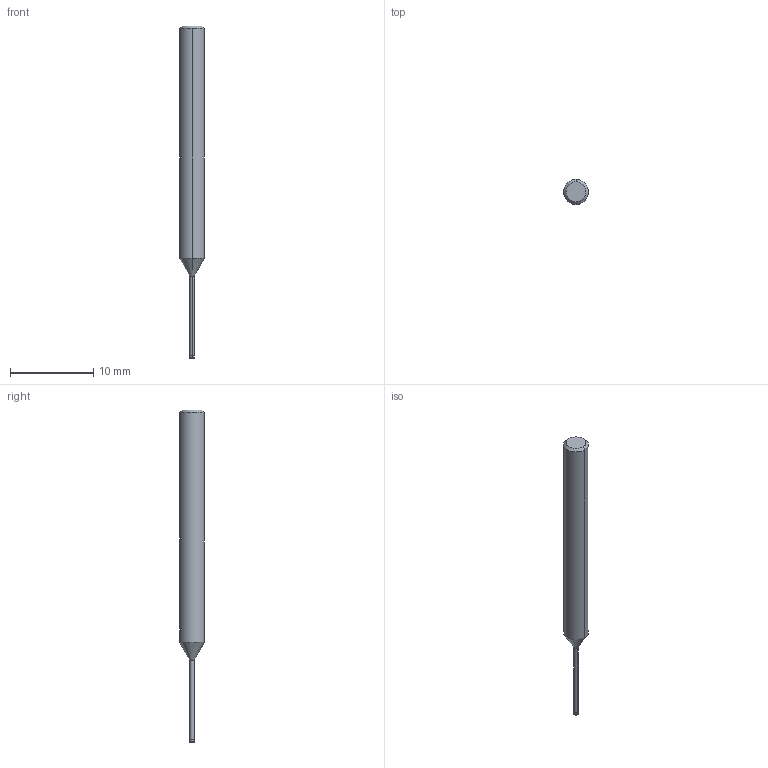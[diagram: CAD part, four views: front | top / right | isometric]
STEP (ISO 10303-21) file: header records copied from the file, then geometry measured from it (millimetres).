
FILE_DESCRIPTION(('no description'),'unknown implementation level');
FILE_NAME('solida1wzjwKNePu57etffGyePZxkTOA_1.STP',' ',('CIMSOURCE GmbH'),('CADClick - KiM GmbH - www.kimweb.de'),'unknown preprocess','ACIS','unknown authorization');
FILE_SCHEMA(('automotive_design'));
Length unit declared in the file: millimetre
Products named in the file (2): NOCUT; CUT
Bounding box: 3 x 3 x 40 mm (x, y, z)
Volume: 205.9 mm3; surface area: 301.3 mm2
Topology: 2 solids, 2 shells, 34 faces, 81 edges, 50 vertices
Faces by surface type: cylinder 12, cone 10, plane 10, torus 2
Entity records: 2118 total; most frequent: CARTESIAN_POINT 383, DIRECTION 173, STYLED_ITEM 163, PRESENTATION_STYLE_ASSIGNMENT 163, COLOUR_RGB 163, ORIENTED_EDGE 154, EDGE_CURVE 77, CURVE_STYLE 77
